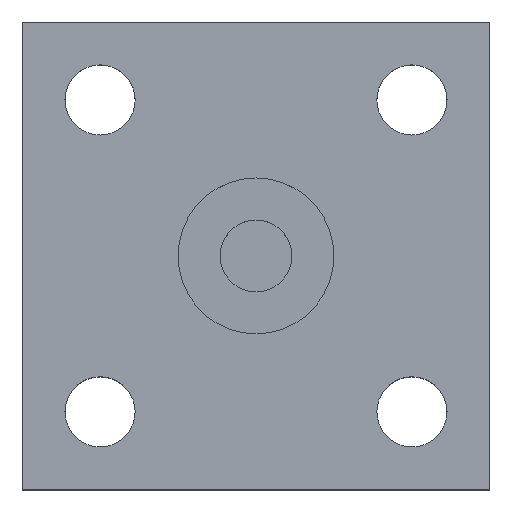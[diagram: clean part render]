
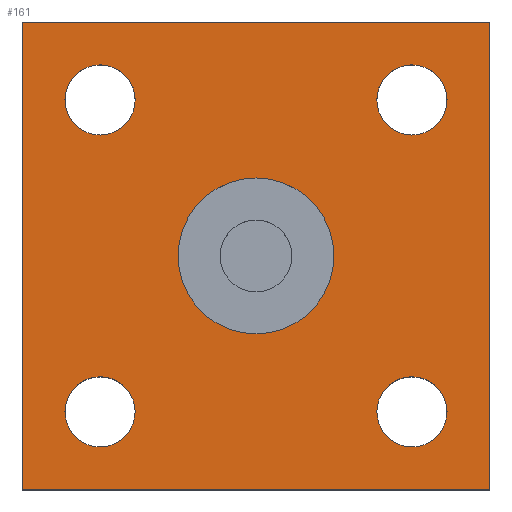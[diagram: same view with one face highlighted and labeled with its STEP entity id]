
A CAD part, top view. The second image highlights one B-rep face of the part: STEP entity #161.
In plain terms, the highlighted planar face has unit normal (0, 0, 1).
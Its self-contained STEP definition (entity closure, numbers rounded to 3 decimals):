
#35=AXIS2_PLACEMENT_3D('Plane Axis2P3D',#32,#33,#34) ;
#73=AXIS2_PLACEMENT_3D('Circle Axis2P3D',#71,#72,$) ;
#82=AXIS2_PLACEMENT_3D('Circle Axis2P3D',#80,#81,$) ;
#91=AXIS2_PLACEMENT_3D('Circle Axis2P3D',#89,#90,$) ;
#100=AXIS2_PLACEMENT_3D('Circle Axis2P3D',#98,#99,$) ;
#109=AXIS2_PLACEMENT_3D('Circle Axis2P3D',#107,#108,$) ;
#118=AXIS2_PLACEMENT_3D('Circle Axis2P3D',#116,#117,$) ;
#127=AXIS2_PLACEMENT_3D('Circle Axis2P3D',#125,#126,$) ;
#136=AXIS2_PLACEMENT_3D('Circle Axis2P3D',#134,#135,$) ;
#145=AXIS2_PLACEMENT_3D('Circle Axis2P3D',#143,#144,$) ;
#154=AXIS2_PLACEMENT_3D('Circle Axis2P3D',#152,#153,$) ;
#32=CARTESIAN_POINT('Axis2P3D Location',(0.,0.,2.8)) ;
#37=CARTESIAN_POINT('Line Origine',(0.,-15.,2.8)) ;
#41=CARTESIAN_POINT('Vertex',(-15.,-15.,2.8)) ;
#43=CARTESIAN_POINT('Vertex',(15.,-15.,2.8)) ;
#46=CARTESIAN_POINT('Line Origine',(15.,0.,2.8)) ;
#50=CARTESIAN_POINT('Vertex',(15.,15.,2.8)) ;
#53=CARTESIAN_POINT('Line Origine',(0.,15.,2.8)) ;
#57=CARTESIAN_POINT('Vertex',(-15.,15.,2.8)) ;
#60=CARTESIAN_POINT('Line Origine',(-15.,0.,2.8)) ;
#71=CARTESIAN_POINT('Axis2P3D Location',(0.,0.,2.8)) ;
#75=CARTESIAN_POINT('Vertex',(-5.,0.,2.8)) ;
#77=CARTESIAN_POINT('Vertex',(5.,0.,2.8)) ;
#80=CARTESIAN_POINT('Axis2P3D Location',(0.,0.,2.8)) ;
#89=CARTESIAN_POINT('Axis2P3D Location',(-10.,10.,2.8)) ;
#93=CARTESIAN_POINT('Vertex',(-7.75,10.,2.8)) ;
#95=CARTESIAN_POINT('Vertex',(-12.25,10.,2.8)) ;
#98=CARTESIAN_POINT('Axis2P3D Location',(-10.,10.,2.8)) ;
#107=CARTESIAN_POINT('Axis2P3D Location',(-10.,-10.,2.8)) ;
#111=CARTESIAN_POINT('Vertex',(-7.75,-10.,2.8)) ;
#113=CARTESIAN_POINT('Vertex',(-12.25,-10.,2.8)) ;
#116=CARTESIAN_POINT('Axis2P3D Location',(-10.,-10.,2.8)) ;
#125=CARTESIAN_POINT('Axis2P3D Location',(10.,10.,2.8)) ;
#129=CARTESIAN_POINT('Vertex',(12.25,10.,2.8)) ;
#131=CARTESIAN_POINT('Vertex',(7.75,10.,2.8)) ;
#134=CARTESIAN_POINT('Axis2P3D Location',(10.,10.,2.8)) ;
#143=CARTESIAN_POINT('Axis2P3D Location',(10.,-10.,2.8)) ;
#147=CARTESIAN_POINT('Vertex',(12.25,-10.,2.8)) ;
#149=CARTESIAN_POINT('Vertex',(7.75,-10.,2.8)) ;
#152=CARTESIAN_POINT('Axis2P3D Location',(10.,-10.,2.8)) ;
#33=DIRECTION('Axis2P3D Direction',(0.,0.,1.)) ;
#34=DIRECTION('Axis2P3D XDirection',(1.,0.,0.)) ;
#38=DIRECTION('Vector Direction',(1.,0.,0.)) ;
#47=DIRECTION('Vector Direction',(0.,-1.,0.)) ;
#54=DIRECTION('Vector Direction',(-1.,0.,0.)) ;
#61=DIRECTION('Vector Direction',(0.,1.,0.)) ;
#72=DIRECTION('Axis2P3D Direction',(0.,0.,1.)) ;
#81=DIRECTION('Axis2P3D Direction',(0.,0.,1.)) ;
#90=DIRECTION('Axis2P3D Direction',(0.,0.,1.)) ;
#99=DIRECTION('Axis2P3D Direction',(0.,0.,1.)) ;
#108=DIRECTION('Axis2P3D Direction',(0.,0.,1.)) ;
#117=DIRECTION('Axis2P3D Direction',(0.,0.,1.)) ;
#126=DIRECTION('Axis2P3D Direction',(0.,0.,1.)) ;
#135=DIRECTION('Axis2P3D Direction',(0.,0.,1.)) ;
#144=DIRECTION('Axis2P3D Direction',(0.,0.,1.)) ;
#153=DIRECTION('Axis2P3D Direction',(0.,0.,1.)) ;
#39=VECTOR('Line Direction',#38,1.) ;
#48=VECTOR('Line Direction',#47,1.) ;
#55=VECTOR('Line Direction',#54,1.) ;
#62=VECTOR('Line Direction',#61,1.) ;
#66=ORIENTED_EDGE('',*,*,#45,.T.) ;
#67=ORIENTED_EDGE('',*,*,#52,.F.) ;
#68=ORIENTED_EDGE('',*,*,#59,.T.) ;
#69=ORIENTED_EDGE('',*,*,#64,.F.) ;
#86=ORIENTED_EDGE('',*,*,#79,.F.) ;
#87=ORIENTED_EDGE('',*,*,#84,.F.) ;
#104=ORIENTED_EDGE('',*,*,#97,.F.) ;
#105=ORIENTED_EDGE('',*,*,#102,.F.) ;
#122=ORIENTED_EDGE('',*,*,#115,.F.) ;
#123=ORIENTED_EDGE('',*,*,#120,.F.) ;
#140=ORIENTED_EDGE('',*,*,#133,.F.) ;
#141=ORIENTED_EDGE('',*,*,#138,.F.) ;
#158=ORIENTED_EDGE('',*,*,#151,.F.) ;
#159=ORIENTED_EDGE('',*,*,#156,.F.) ;
#88=FACE_BOUND('',#85,.T.) ;
#106=FACE_BOUND('',#103,.T.) ;
#124=FACE_BOUND('',#121,.T.) ;
#142=FACE_BOUND('',#139,.T.) ;
#160=FACE_BOUND('',#157,.T.) ;
#161=ADVANCED_FACE('\X2\96F64EF651E04F554F53\X0\',(#70,#88,#106,#124,#142,#160),#36,.T.) ;
#74=CIRCLE('generated circle',#73,5.) ;
#83=CIRCLE('generated circle',#82,5.) ;
#92=CIRCLE('generated circle',#91,2.25) ;
#101=CIRCLE('generated circle',#100,2.25) ;
#110=CIRCLE('generated circle',#109,2.25) ;
#119=CIRCLE('generated circle',#118,2.25) ;
#128=CIRCLE('generated circle',#127,2.25) ;
#137=CIRCLE('generated circle',#136,2.25) ;
#146=CIRCLE('generated circle',#145,2.25) ;
#155=CIRCLE('generated circle',#154,2.25) ;
#45=EDGE_CURVE('',#42,#44,#40,.T.) ;
#52=EDGE_CURVE('',#51,#44,#49,.T.) ;
#59=EDGE_CURVE('',#51,#58,#56,.T.) ;
#64=EDGE_CURVE('',#42,#58,#63,.T.) ;
#79=EDGE_CURVE('',#76,#78,#74,.T.) ;
#84=EDGE_CURVE('',#78,#76,#83,.T.) ;
#97=EDGE_CURVE('',#94,#96,#92,.T.) ;
#102=EDGE_CURVE('',#96,#94,#101,.T.) ;
#115=EDGE_CURVE('',#112,#114,#110,.T.) ;
#120=EDGE_CURVE('',#114,#112,#119,.T.) ;
#133=EDGE_CURVE('',#130,#132,#128,.T.) ;
#138=EDGE_CURVE('',#132,#130,#137,.T.) ;
#151=EDGE_CURVE('',#148,#150,#146,.T.) ;
#156=EDGE_CURVE('',#150,#148,#155,.T.) ;
#65=EDGE_LOOP('',(#66,#67,#68,#69)) ;
#85=EDGE_LOOP('',(#86,#87)) ;
#103=EDGE_LOOP('',(#104,#105)) ;
#121=EDGE_LOOP('',(#122,#123)) ;
#139=EDGE_LOOP('',(#140,#141)) ;
#157=EDGE_LOOP('',(#158,#159)) ;
#70=FACE_OUTER_BOUND('',#65,.T.) ;
#40=LINE('Line',#37,#39) ;
#49=LINE('Line',#46,#48) ;
#56=LINE('Line',#53,#55) ;
#63=LINE('Line',#60,#62) ;
#36=PLANE('',#35) ;
#42=VERTEX_POINT('',#41) ;
#44=VERTEX_POINT('',#43) ;
#51=VERTEX_POINT('',#50) ;
#58=VERTEX_POINT('',#57) ;
#76=VERTEX_POINT('',#75) ;
#78=VERTEX_POINT('',#77) ;
#94=VERTEX_POINT('',#93) ;
#96=VERTEX_POINT('',#95) ;
#112=VERTEX_POINT('',#111) ;
#114=VERTEX_POINT('',#113) ;
#130=VERTEX_POINT('',#129) ;
#132=VERTEX_POINT('',#131) ;
#148=VERTEX_POINT('',#147) ;
#150=VERTEX_POINT('',#149) ;
